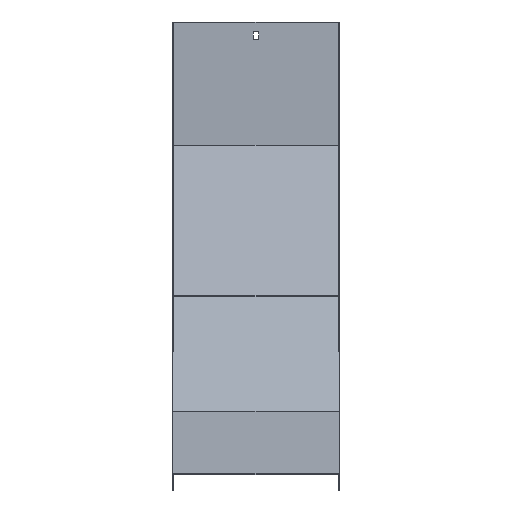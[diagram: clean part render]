
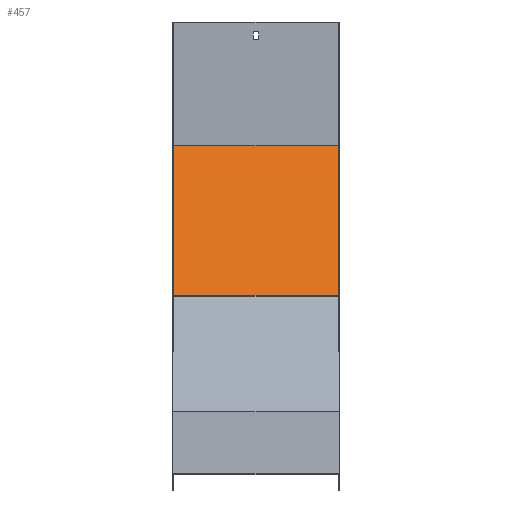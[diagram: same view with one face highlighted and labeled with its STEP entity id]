
A CAD part, top view. The second image highlights one B-rep face of the part: STEP entity #457.
In plain terms, the highlighted planar face has unit normal (0, 0.383, 0.924).
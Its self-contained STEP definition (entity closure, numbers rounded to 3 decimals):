
#29 = DIRECTION ( 'NONE',  ( 0., 0.924, -0.383 ) ) ;
#76 = VERTEX_POINT ( 'NONE', #471 ) ;
#84 = CARTESIAN_POINT ( 'NONE',  ( 101.5, 216.541, -473.877 ) ) ;
#131 = CARTESIAN_POINT ( 'NONE',  ( 101.5, 216.541, -473.877 ) ) ;
#242 = CARTESIAN_POINT ( 'NONE',  ( 101.5, 216.541, -473.877 ) ) ;
#247 = DIRECTION ( 'NONE',  ( 0., -0.924, 0.383 ) ) ;
#252 = VERTEX_POINT ( 'NONE', #84 ) ;
#296 = LINE ( 'NONE', #639, #1049 ) ;
#335 = DIRECTION ( 'NONE',  ( -1., 0., 0. ) ) ;
#421 = DIRECTION ( 'NONE',  ( 0., 0.383, 0.924 ) ) ;
#457 = ADVANCED_FACE ( 'NONE', ( #772 ), #1118, .T. ) ;
#471 = CARTESIAN_POINT ( 'NONE',  ( 101.5, 400.116, -549.916 ) ) ;
#476 = LINE ( 'NONE', #652, #923 ) ;
#488 = LINE ( 'NONE', #131, #887 ) ;
#534 = ORIENTED_EDGE ( 'NONE', *, *, #928, .T. ) ;
#572 = DIRECTION ( 'NONE',  ( 0., 0.924, -0.383 ) ) ;
#580 = EDGE_CURVE ( 'NONE', #677, #984, #476, .T. ) ;
#591 = AXIS2_PLACEMENT_3D ( 'NONE', #1022, #421, #247 ) ;
#621 = ORIENTED_EDGE ( 'NONE', *, *, #1003, .T. ) ;
#629 = ORIENTED_EDGE ( 'NONE', *, *, #580, .F. ) ;
#639 = CARTESIAN_POINT ( 'NONE',  ( 101.5, 400.116, -549.916 ) ) ;
#652 = CARTESIAN_POINT ( 'NONE',  ( -101.5, 216.541, -473.877 ) ) ;
#677 = VERTEX_POINT ( 'NONE', #1094 ) ;
#705 = VECTOR ( 'NONE', #335, 1000. ) ;
#772 = FACE_OUTER_BOUND ( 'NONE', #962, .T. ) ;
#887 = VECTOR ( 'NONE', #572, 1000. ) ;
#923 = VECTOR ( 'NONE', #29, 1000. ) ;
#928 = EDGE_CURVE ( 'NONE', #252, #76, #488, .T. ) ;
#962 = EDGE_LOOP ( 'NONE', ( #629, #1010, #534, #621 ) ) ;
#984 = VERTEX_POINT ( 'NONE', #1076 ) ;
#1003 = EDGE_CURVE ( 'NONE', #76, #984, #296, .T. ) ;
#1005 = DIRECTION ( 'NONE',  ( -1., 0., 0. ) ) ;
#1010 = ORIENTED_EDGE ( 'NONE', *, *, #1109, .F. ) ;
#1016 = LINE ( 'NONE', #242, #705 ) ;
#1022 = CARTESIAN_POINT ( 'NONE',  ( 101.5, 216.541, -473.877 ) ) ;
#1049 = VECTOR ( 'NONE', #1005, 1000. ) ;
#1076 = CARTESIAN_POINT ( 'NONE',  ( -101.5, 400.116, -549.916 ) ) ;
#1094 = CARTESIAN_POINT ( 'NONE',  ( -101.5, 216.541, -473.877 ) ) ;
#1109 = EDGE_CURVE ( 'NONE', #252, #677, #1016, .T. ) ;
#1118 = PLANE ( 'NONE',  #591 ) ;
